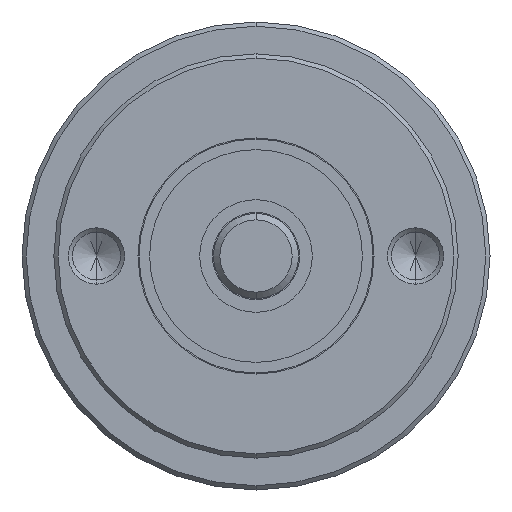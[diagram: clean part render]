
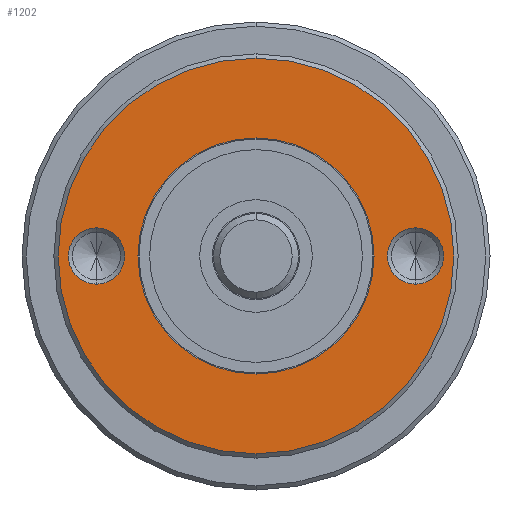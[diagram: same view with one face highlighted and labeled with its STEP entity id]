
A CAD part, front view. The second image highlights one B-rep face of the part: STEP entity #1202.
In plain terms, the highlighted planar face has unit normal (0, -1, 0).
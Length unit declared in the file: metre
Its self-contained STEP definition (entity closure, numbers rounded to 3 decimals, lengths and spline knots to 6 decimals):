
#155 = CARTESIAN_POINT ( 'NONE',  ( 0., 0.01, 0.0093 ) ) ;
#276 = CARTESIAN_POINT ( 'NONE',  ( 0.0075, 0.01, -0.001325 ) ) ;
#326 = CARTESIAN_POINT ( 'NONE',  ( -0.0075, 0.01, -0.001325 ) ) ;
#348 = CIRCLE ( 'NONE', #349, 0.001325 ) ;
#349 = AXIS2_PLACEMENT_3D ( 'NONE', #350, #352, #353 ) ;
#350 = CARTESIAN_POINT ( 'NONE',  ( 0.0075, 0.01, 0. ) ) ;
#352 = DIRECTION ( 'NONE',  ( 0., 1., 0. ) ) ;
#353 = DIRECTION ( 'NONE',  ( 0., 0., -1. ) ) ;
#485 = CIRCLE ( 'NONE', #486, 0.0093 ) ;
#486 = AXIS2_PLACEMENT_3D ( 'NONE', #487, #488, #489 ) ;
#487 = CARTESIAN_POINT ( 'NONE',  ( 0., 0.01, 0. ) ) ;
#488 = DIRECTION ( 'NONE',  ( 0., -1., 0. ) ) ;
#489 = DIRECTION ( 'NONE',  ( 0., 0., -1. ) ) ;
#551 = CARTESIAN_POINT ( 'NONE',  ( 0., 0.01, 0.00555 ) ) ;
#714 = CARTESIAN_POINT ( 'NONE',  ( 0.0075, 0.01, 0.001325 ) ) ;
#877 = CIRCLE ( 'NONE', #878, 0.00555 ) ;
#878 = AXIS2_PLACEMENT_3D ( 'NONE', #879, #880, #881 ) ;
#879 = CARTESIAN_POINT ( 'NONE',  ( 0., 0.01, 0. ) ) ;
#880 = DIRECTION ( 'NONE',  ( 0., -1., 0. ) ) ;
#881 = DIRECTION ( 'NONE',  ( 0., 0., -1. ) ) ;
#959 = CARTESIAN_POINT ( 'NONE',  ( 0., 0.01, -0.00555 ) ) ;
#1037 = CIRCLE ( 'NONE', #1038, 0.001325 ) ;
#1038 = AXIS2_PLACEMENT_3D ( 'NONE', #1039, #1040, #1041 ) ;
#1039 = CARTESIAN_POINT ( 'NONE',  ( 0.0075, 0.01, 0. ) ) ;
#1040 = DIRECTION ( 'NONE',  ( 0., 1., 0. ) ) ;
#1041 = DIRECTION ( 'NONE',  ( 0., 0., -1. ) ) ;
#1180 = EDGE_CURVE ( 'NONE', #3377, #2531, #2691, .T. ) ;
#1181 = EDGE_LOOP ( 'NONE', ( #1212, #1270 ) ) ;
#1202 = ADVANCED_FACE ( 'NONE', ( #2865, #2866, #2867, #2868 ), #2869, .T. ) ;
#1212 = ORIENTED_EDGE ( 'NONE', *, *, #1238, .T. ) ;
#1225 = EDGE_LOOP ( 'NONE', ( #1253, #1285 ) ) ;
#1238 = EDGE_CURVE ( 'NONE', #1309, #3642, #3134, .T. ) ;
#1253 = ORIENTED_EDGE ( 'NONE', *, *, #3708, .T. ) ;
#1270 = ORIENTED_EDGE ( 'NONE', *, *, #1345, .T. ) ;
#1285 = ORIENTED_EDGE ( 'NONE', *, *, #1443, .T. ) ;
#1286 = EDGE_LOOP ( 'NONE', ( #3538, #3567 ) ) ;
#1309 = VERTEX_POINT ( 'NONE', #155 ) ;
#1345 = EDGE_CURVE ( 'NONE', #3642, #1309, #485, .T. ) ;
#1443 = EDGE_CURVE ( 'NONE', #3751, #1981, #1037, .T. ) ;
#1472 = EDGE_LOOP ( 'NONE', ( #1552, #1617 ) ) ;
#1490 = EDGE_CURVE ( 'NONE', #3705, #1719, #2028, .T. ) ;
#1552 = ORIENTED_EDGE ( 'NONE', *, *, #1490, .T. ) ;
#1617 = ORIENTED_EDGE ( 'NONE', *, *, #1654, .T. ) ;
#1654 = EDGE_CURVE ( 'NONE', #1719, #3705, #2630, .T. ) ;
#1719 = VERTEX_POINT ( 'NONE', #2902 ) ;
#1981 = VERTEX_POINT ( 'NONE', #276 ) ;
#2028 = CIRCLE ( 'NONE', #2029, 0.001325 ) ;
#2029 = AXIS2_PLACEMENT_3D ( 'NONE', #2030, #2031, #2032 ) ;
#2030 = CARTESIAN_POINT ( 'NONE',  ( -0.0075, 0.01, 0. ) ) ;
#2031 = DIRECTION ( 'NONE',  ( 0., 1., 0. ) ) ;
#2032 = DIRECTION ( 'NONE',  ( 0., 0., -1. ) ) ;
#2531 = VERTEX_POINT ( 'NONE', #551 ) ;
#2630 = CIRCLE ( 'NONE', #2631, 0.001325 ) ;
#2631 = AXIS2_PLACEMENT_3D ( 'NONE', #2632, #2633, #2634 ) ;
#2632 = CARTESIAN_POINT ( 'NONE',  ( -0.0075, 0.01, 0. ) ) ;
#2633 = DIRECTION ( 'NONE',  ( 0., 1., 0. ) ) ;
#2634 = DIRECTION ( 'NONE',  ( 0., 0., -1. ) ) ;
#2691 = CIRCLE ( 'NONE', #2692, 0.00555 ) ;
#2692 = AXIS2_PLACEMENT_3D ( 'NONE', #2693, #2694, #2695 ) ;
#2693 = CARTESIAN_POINT ( 'NONE',  ( 0., 0.01, 0. ) ) ;
#2694 = DIRECTION ( 'NONE',  ( 0., -1., 0. ) ) ;
#2695 = DIRECTION ( 'NONE',  ( 0., 0., -1. ) ) ;
#2865 = FACE_BOUND ( 'NONE', #1225, .T. ) ;
#2866 = FACE_BOUND ( 'NONE', #1472, .T. ) ;
#2867 = FACE_OUTER_BOUND ( 'NONE', #1181, .T. ) ;
#2868 = FACE_BOUND ( 'NONE', #1286, .T. ) ;
#2869 = PLANE ( 'NONE',  #2870 ) ;
#2870 = AXIS2_PLACEMENT_3D ( 'NONE', #2871, #2872, #2873 ) ;
#2871 = CARTESIAN_POINT ( 'NONE',  ( 0.00555, 0.01, 0. ) ) ;
#2872 = DIRECTION ( 'NONE',  ( 0., -1., 0. ) ) ;
#2873 = DIRECTION ( 'NONE',  ( 0., 0., -1. ) ) ;
#2902 = CARTESIAN_POINT ( 'NONE',  ( -0.0075, 0.01, 0.001325 ) ) ;
#3134 = CIRCLE ( 'NONE', #3135, 0.0093 ) ;
#3135 = AXIS2_PLACEMENT_3D ( 'NONE', #3136, #3137, #3138 ) ;
#3136 = CARTESIAN_POINT ( 'NONE',  ( 0., 0.01, 0. ) ) ;
#3137 = DIRECTION ( 'NONE',  ( 0., -1., 0. ) ) ;
#3138 = DIRECTION ( 'NONE',  ( 0., 0., -1. ) ) ;
#3144 = CARTESIAN_POINT ( 'NONE',  ( 0., 0.01, -0.0093 ) ) ;
#3180 = EDGE_CURVE ( 'NONE', #2531, #3377, #877, .T. ) ;
#3377 = VERTEX_POINT ( 'NONE', #959 ) ;
#3538 = ORIENTED_EDGE ( 'NONE', *, *, #1180, .F. ) ;
#3567 = ORIENTED_EDGE ( 'NONE', *, *, #3180, .F. ) ;
#3642 = VERTEX_POINT ( 'NONE', #3144 ) ;
#3705 = VERTEX_POINT ( 'NONE', #326 ) ;
#3708 = EDGE_CURVE ( 'NONE', #1981, #3751, #348, .T. ) ;
#3751 = VERTEX_POINT ( 'NONE', #714 ) ;
